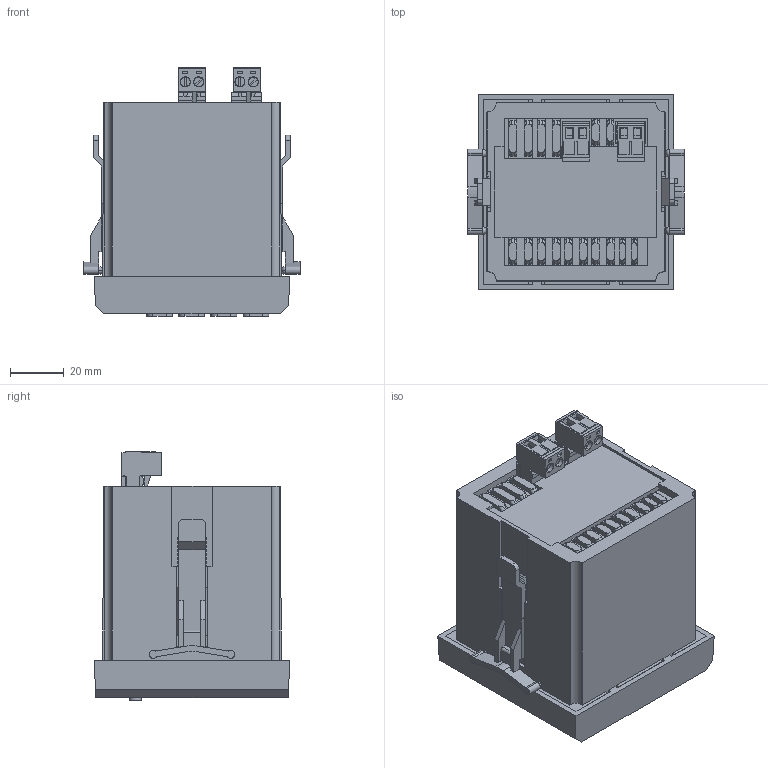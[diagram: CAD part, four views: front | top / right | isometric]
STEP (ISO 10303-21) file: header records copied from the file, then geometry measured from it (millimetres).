
FILE_DESCRIPTION (( 'STEP AP203' ), '1' );
FILE_NAME ('VMD-771 ASTER.STEP', '2019-12-02T21:12:52', ( '' ), ( '' ), 'SwSTEP 2.0', 'SolidWorks 2017', '' );
FILE_SCHEMA (( 'CONFIG_CONTROL_DESIGN' ));
Length unit declared in the file: millimetre
Products named in the file (1): VMD-771 ASTER
Bounding box: 80.82 x 73 x 92.9 mm (x, y, z)
Volume: 103784 mm3; surface area: 84569.6 mm2
Topology: 4 solids, 6 shells, 1331 faces, 3740 edges, 2413 vertices
Faces by surface type: plane 1045, cylinder 266, cone 12, bspline 8
Entity records: 42435 total; most frequent: CARTESIAN_POINT 8041, ORIENTED_EDGE 7448, DIRECTION 6710, EDGE_CURVE 3724, VECTOR 3098, LINE 3098, VERTEX_POINT 2413, AXIS2_PLACEMENT_3D 1806
